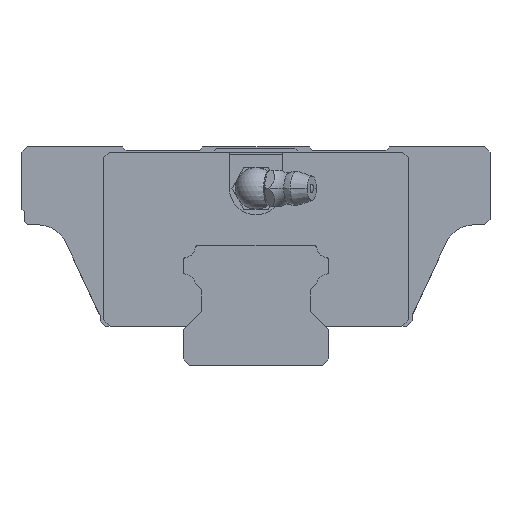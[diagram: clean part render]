
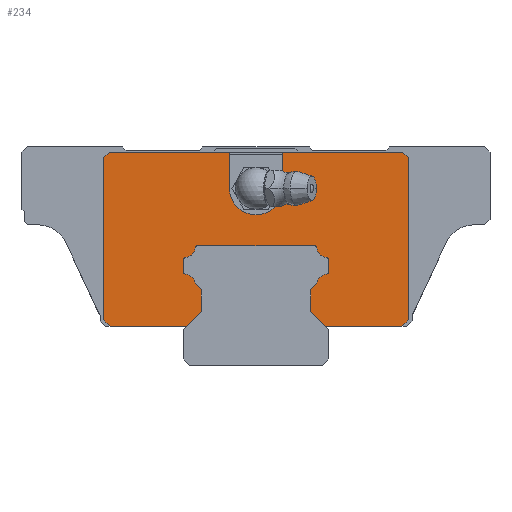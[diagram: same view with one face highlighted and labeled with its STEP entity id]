
A CAD part, front view. The second image highlights one B-rep face of the part: STEP entity #234.
In plain terms, the highlighted planar face has unit normal (0, -1, 0).
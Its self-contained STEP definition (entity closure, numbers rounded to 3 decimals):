
#234=ADVANCED_FACE('',(#568),#569,.F.);
#568=FACE_OUTER_BOUND('',#1134,.T.);
#569=PLANE('',#1135);
#1134=EDGE_LOOP('',(#2118,#2119,#2120,#2121,#2122,#2123,#2124,#2125,#2126,#2127,#2128,#2129,#2130,#2131,#2132,#2133,#2134,#2135,#2136,#2137,#2138,#2139,#2140,#2141,#2142,#2143,#2144,#2145,#2146,#2147,#2148,#2149,#2150));
#1135=AXIS2_PLACEMENT_3D('',#2151,#2152,#2153);
#2118=ORIENTED_EDGE('',*,*,#4093,.F.);
#2119=ORIENTED_EDGE('',*,*,#4094,.T.);
#2120=ORIENTED_EDGE('',*,*,#4095,.T.);
#2121=ORIENTED_EDGE('',*,*,#4096,.T.);
#2122=ORIENTED_EDGE('',*,*,#4097,.T.);
#2123=ORIENTED_EDGE('',*,*,#4098,.T.);
#2124=ORIENTED_EDGE('',*,*,#4099,.F.);
#2125=ORIENTED_EDGE('',*,*,#4100,.F.);
#2126=ORIENTED_EDGE('',*,*,#3859,.F.);
#2127=ORIENTED_EDGE('',*,*,#4101,.F.);
#2128=ORIENTED_EDGE('',*,*,#4102,.T.);
#2129=ORIENTED_EDGE('',*,*,#4103,.T.);
#2130=ORIENTED_EDGE('',*,*,#4071,.T.);
#2131=ORIENTED_EDGE('',*,*,#4104,.T.);
#2132=ORIENTED_EDGE('',*,*,#4105,.T.);
#2133=ORIENTED_EDGE('',*,*,#4106,.F.);
#2134=ORIENTED_EDGE('',*,*,#4107,.F.);
#2135=ORIENTED_EDGE('',*,*,#4091,.F.);
#2136=ORIENTED_EDGE('',*,*,#4068,.F.);
#2137=ORIENTED_EDGE('',*,*,#4108,.F.);
#2138=ORIENTED_EDGE('',*,*,#4020,.F.);
#2139=ORIENTED_EDGE('',*,*,#4109,.F.);
#2140=ORIENTED_EDGE('',*,*,#4110,.F.);
#2141=ORIENTED_EDGE('',*,*,#4111,.F.);
#2142=ORIENTED_EDGE('',*,*,#4112,.F.);
#2143=ORIENTED_EDGE('',*,*,#4113,.F.);
#2144=ORIENTED_EDGE('',*,*,#4016,.F.);
#2145=ORIENTED_EDGE('',*,*,#4114,.F.);
#2146=ORIENTED_EDGE('',*,*,#4115,.F.);
#2147=ORIENTED_EDGE('',*,*,#4116,.F.);
#2148=ORIENTED_EDGE('',*,*,#4044,.F.);
#2149=ORIENTED_EDGE('',*,*,#4117,.F.);
#2150=ORIENTED_EDGE('',*,*,#4118,.F.);
#2151=CARTESIAN_POINT('',(44.9,-13.8,24.35));
#2152=DIRECTION('',(0.0,1.0,0.0));
#2153=DIRECTION('',(1.0,0.0,0.0));
#3859=EDGE_CURVE('',#4576,#4572,#4578,.T.);
#4016=EDGE_CURVE('',#4872,#4864,#4874,.T.);
#4020=EDGE_CURVE('',#4880,#4876,#4882,.T.);
#4044=EDGE_CURVE('',#4920,#4912,#4922,.T.);
#4068=EDGE_CURVE('',#4962,#4954,#4964,.T.);
#4071=EDGE_CURVE('',#4969,#4966,#4970,.T.);
#4091=EDGE_CURVE('',#4954,#4999,#5002,.T.);
#4093=EDGE_CURVE('',#5004,#5005,#5006,.T.);
#4094=EDGE_CURVE('',#5004,#5007,#5008,.T.);
#4095=EDGE_CURVE('',#5007,#5009,#5010,.T.);
#4096=EDGE_CURVE('',#5009,#5011,#5012,.T.);
#4097=EDGE_CURVE('',#5011,#5013,#5014,.T.);
#4098=EDGE_CURVE('',#5013,#5015,#5016,.T.);
#4099=EDGE_CURVE('',#5017,#5015,#5018,.T.);
#4100=EDGE_CURVE('',#4572,#5017,#5019,.T.);
#4101=EDGE_CURVE('',#5020,#4576,#5021,.T.);
#4102=EDGE_CURVE('',#5020,#5022,#5023,.T.);
#4103=EDGE_CURVE('',#5022,#4969,#5024,.T.);
#4104=EDGE_CURVE('',#4966,#5025,#5026,.T.);
#4105=EDGE_CURVE('',#5025,#5027,#5028,.T.);
#4106=EDGE_CURVE('',#5029,#5027,#5030,.T.);
#4107=EDGE_CURVE('',#4999,#5029,#5031,.T.);
#4108=EDGE_CURVE('',#4876,#4962,#5032,.T.);
#4109=EDGE_CURVE('',#5033,#4880,#5034,.T.);
#4110=EDGE_CURVE('',#5035,#5033,#5036,.T.);
#4111=EDGE_CURVE('',#5037,#5035,#5038,.T.);
#4112=EDGE_CURVE('',#5039,#5037,#5040,.T.);
#4113=EDGE_CURVE('',#4864,#5039,#5041,.T.);
#4114=EDGE_CURVE('',#5042,#4872,#5043,.T.);
#4115=EDGE_CURVE('',#5044,#5042,#5045,.T.);
#4116=EDGE_CURVE('',#4912,#5044,#5046,.T.);
#4117=EDGE_CURVE('',#5047,#4920,#5048,.T.);
#4118=EDGE_CURVE('',#5005,#5047,#5049,.T.);
#4572=VERTEX_POINT('',#5754);
#4576=VERTEX_POINT('',#5759);
#4578=CIRCLE('',#5762,5.1);
#4864=VERTEX_POINT('',#6130);
#4872=VERTEX_POINT('',#6145);
#4874=CIRCLE('',#6150,2.0);
#4876=VERTEX_POINT('',#6152);
#4880=VERTEX_POINT('',#6158);
#4882=LINE('',#6161,#6162);
#4912=VERTEX_POINT('',#6205);
#4920=VERTEX_POINT('',#6222);
#4922=CIRCLE('',#6225,2.0);
#4954=VERTEX_POINT('',#6268);
#4962=VERTEX_POINT('',#6283);
#4964=CIRCLE('',#6288,2.0);
#4966=VERTEX_POINT('',#6290);
#4969=VERTEX_POINT('',#6294);
#4970=LINE('',#6295,#6296);
#4999=VERTEX_POINT('',#6338);
#5002=LINE('',#6343,#6344);
#5004=VERTEX_POINT('',#6346);
#5005=VERTEX_POINT('',#6347);
#5006=LINE('',#6348,#6349);
#5007=VERTEX_POINT('',#6350);
#5008=LINE('',#6351,#6352);
#5009=VERTEX_POINT('',#6353);
#5010=LINE('',#6354,#6355);
#5011=VERTEX_POINT('',#6356);
#5012=LINE('',#6357,#6358);
#5013=VERTEX_POINT('',#6359);
#5014=LINE('',#6360,#6361);
#5015=VERTEX_POINT('',#6362);
#5016=LINE('',#6363,#6364);
#5017=VERTEX_POINT('',#6365);
#5018=LINE('',#6366,#6367);
#5019=CIRCLE('',#6368,5.1);
#5020=VERTEX_POINT('',#6369);
#5021=LINE('',#6370,#6371);
#5022=VERTEX_POINT('',#6372);
#5023=LINE('',#6373,#6374);
#5024=LINE('',#6375,#6376);
#5025=VERTEX_POINT('',#6377);
#5026=LINE('',#6378,#6379);
#5027=VERTEX_POINT('',#6380);
#5028=LINE('',#6381,#6382);
#5029=VERTEX_POINT('',#6383);
#5030=LINE('',#6384,#6385);
#5031=LINE('',#6386,#6387);
#5032=CIRCLE('',#6388,0.5);
#5033=VERTEX_POINT('',#6389);
#5034=CIRCLE('',#6390,0.5);
#5035=VERTEX_POINT('',#6391);
#5036=CIRCLE('',#6392,2.0);
#5037=VERTEX_POINT('',#6393);
#5038=CIRCLE('',#6394,0.5);
#5039=VERTEX_POINT('',#6395);
#5040=LINE('',#6396,#6397);
#5041=CIRCLE('',#6398,0.5);
#5042=VERTEX_POINT('',#6399);
#5043=CIRCLE('',#6400,0.5);
#5044=VERTEX_POINT('',#6401);
#5045=LINE('',#6402,#6403);
#5046=CIRCLE('',#6404,0.5);
#5047=VERTEX_POINT('',#6405);
#5048=LINE('',#6406,#6407);
#5049=LINE('',#6408,#6409);
#5754=CARTESIAN_POINT('',(0.,-13.8,28.9));
#5759=CARTESIAN_POINT('',(-5.1,-13.8,34.0));
#5762=AXIS2_PLACEMENT_3D('',#7572,#7573,#7574);
#6130=CARTESIAN_POINT('',(11.699,-13.8,22.544));
#6145=CARTESIAN_POINT('',(13.536,-13.8,20.725));
#6150=AXIS2_PLACEMENT_3D('',#7868,#7869,#7870);
#6152=CARTESIAN_POINT('',(-14.,-13.8,17.995));
#6158=CARTESIAN_POINT('',(-14.,-13.8,20.226));
#6161=CARTESIAN_POINT('',(-14.,-13.8,24.35));
#6162=VECTOR('',#7874,1000.0);
#6205=CARTESIAN_POINT('',(13.536,-13.8,17.496));
#6222=CARTESIAN_POINT('',(11.701,-13.8,15.703));
#6225=AXIS2_PLACEMENT_3D('',#7907,#7908,#7909);
#6268=CARTESIAN_POINT('',(-11.701,-13.8,15.703));
#6283=CARTESIAN_POINT('',(-13.536,-13.8,17.496));
#6288=AXIS2_PLACEMENT_3D('',#7946,#7947,#7948);
#6290=CARTESIAN_POINT('',(-29.25,-13.8,8.7));
#6294=CARTESIAN_POINT('',(-29.25,-13.8,40.0));
#6295=CARTESIAN_POINT('',(-29.25,-13.8,40.0));
#6296=VECTOR('',#7953,1000.0);
#6338=CARTESIAN_POINT('',(-10.5,-13.8,14.502));
#6343=CARTESIAN_POINT('',(12.276,-13.8,-8.274));
#6344=VECTOR('',#7981,1000.0);
#6346=CARTESIAN_POINT('',(13.3,-13.8,7.5));
#6347=CARTESIAN_POINT('',(10.5,-13.8,10.3));
#6348=CARTESIAN_POINT('',(20.675,-13.8,0.125));
#6349=VECTOR('',#7985,1000.0);
#6350=CARTESIAN_POINT('',(28.05,-13.8,7.5));
#6351=CARTESIAN_POINT('',(-28.05,-13.8,7.5));
#6352=VECTOR('',#7986,1000.0);
#6353=CARTESIAN_POINT('',(29.25,-13.8,8.7));
#6354=CARTESIAN_POINT('',(28.05,-13.8,7.5));
#6355=VECTOR('',#7987,1000.0);
#6356=CARTESIAN_POINT('',(29.25,-13.8,40.0));
#6357=CARTESIAN_POINT('',(29.25,-13.8,8.7));
#6358=VECTOR('',#7988,1000.0);
#6359=CARTESIAN_POINT('',(28.25,-13.8,41.0));
#6360=CARTESIAN_POINT('',(29.25,-13.8,40.0));
#6361=VECTOR('',#7989,1000.0);
#6362=CARTESIAN_POINT('',(5.1,-13.8,41.0));
#6363=CARTESIAN_POINT('',(28.25,-13.8,41.0));
#6364=VECTOR('',#7990,1000.0);
#6365=CARTESIAN_POINT('',(5.1,-13.8,34.0));
#6366=CARTESIAN_POINT('',(5.1,-13.8,34.0));
#6367=VECTOR('',#7991,1000.0);
#6368=AXIS2_PLACEMENT_3D('',#7992,#7993,#7994);
#6369=CARTESIAN_POINT('',(-5.1,-13.8,41.0));
#6370=CARTESIAN_POINT('',(-5.1,-13.8,41.0));
#6371=VECTOR('',#7995,1000.0);
#6372=CARTESIAN_POINT('',(-28.25,-13.8,41.0));
#6373=CARTESIAN_POINT('',(28.25,-13.8,41.0));
#6374=VECTOR('',#7996,1000.0);
#6375=CARTESIAN_POINT('',(-28.25,-13.8,41.0));
#6376=VECTOR('',#7997,1000.0);
#6377=CARTESIAN_POINT('',(-28.05,-13.8,7.5));
#6378=CARTESIAN_POINT('',(-29.25,-13.8,8.7));
#6379=VECTOR('',#7998,1000.0);
#6380=CARTESIAN_POINT('',(-13.3,-13.8,7.5));
#6381=CARTESIAN_POINT('',(-28.05,-13.8,7.5));
#6382=VECTOR('',#7999,1000.0);
#6383=CARTESIAN_POINT('',(-10.5,-13.8,10.3));
#6384=CARTESIAN_POINT('',(24.225,-13.8,45.025));
#6385=VECTOR('',#8000,1000.0);
#6386=CARTESIAN_POINT('',(-10.5,-13.8,24.35));
#6387=VECTOR('',#8001,1000.0);
#6388=AXIS2_PLACEMENT_3D('',#8002,#8003,#8004);
#6389=CARTESIAN_POINT('',(-13.536,-13.8,20.725));
#6390=AXIS2_PLACEMENT_3D('',#8005,#8006,#8007);
#6391=CARTESIAN_POINT('',(-11.699,-13.8,22.544));
#6392=AXIS2_PLACEMENT_3D('',#8008,#8009,#8010);
#6393=CARTESIAN_POINT('',(-11.201,-13.8,23.0));
#6394=AXIS2_PLACEMENT_3D('',#8011,#8012,#8013);
#6395=CARTESIAN_POINT('',(11.201,-13.8,23.0));
#6396=CARTESIAN_POINT('',(44.9,-13.8,23.0));
#6397=VECTOR('',#8014,1000.0);
#6398=AXIS2_PLACEMENT_3D('',#8015,#8016,#8017);
#6399=CARTESIAN_POINT('',(14.,-13.8,20.226));
#6400=AXIS2_PLACEMENT_3D('',#8018,#8019,#8020);
#6401=CARTESIAN_POINT('',(14.,-13.8,17.995));
#6402=CARTESIAN_POINT('',(14.,-13.8,24.35));
#6403=VECTOR('',#8021,1000.0);
#6404=AXIS2_PLACEMENT_3D('',#8022,#8023,#8024);
#6405=CARTESIAN_POINT('',(10.5,-13.8,14.502));
#6406=CARTESIAN_POINT('',(32.624,-13.8,36.626));
#6407=VECTOR('',#8025,1000.0);
#6408=CARTESIAN_POINT('',(10.5,-13.8,24.35));
#6409=VECTOR('',#8026,1000.0);
#7572=CARTESIAN_POINT('',(0.0,-13.8,34.0));
#7573=DIRECTION('',(0.0,-1.0,0.0));
#7574=DIRECTION('',(-1.0,0.0,0.0));
#7868=CARTESIAN_POINT('',(13.691,-13.8,22.719));
#7869=DIRECTION('',(0.0,1.0,0.0));
#7870=DIRECTION('',(0.0,0.0,1.0));
#7874=DIRECTION('',(0.0,0.0,-1.0));
#7907=CARTESIAN_POINT('',(13.691,-13.8,15.502));
#7908=DIRECTION('',(0.0,1.0,0.0));
#7909=DIRECTION('',(0.0,0.0,1.0));
#7946=CARTESIAN_POINT('',(-13.691,-13.8,15.502));
#7947=DIRECTION('',(0.0,1.0,0.0));
#7948=DIRECTION('',(0.0,0.0,1.0));
#7953=DIRECTION('',(0.0,0.0,-1.0));
#7981=DIRECTION('',(0.707,0.0,-0.707));
#7985=DIRECTION('',(-0.707,0.0,0.707));
#7986=DIRECTION('',(1.0,0.0,0.0));
#7987=DIRECTION('',(0.707,0.0,0.707));
#7988=DIRECTION('',(0.0,0.0,1.0));
#7989=DIRECTION('',(-0.707,0.0,0.707));
#7990=DIRECTION('',(-1.0,0.0,0.0));
#7991=DIRECTION('',(0.0,0.0,1.0));
#7992=CARTESIAN_POINT('',(0.0,-13.8,34.0));
#7993=DIRECTION('',(0.0,-1.0,0.0));
#7994=DIRECTION('',(-1.0,0.0,0.0));
#7995=DIRECTION('',(0.0,0.0,-1.0));
#7996=DIRECTION('',(-1.0,0.0,0.0));
#7997=DIRECTION('',(-0.707,0.0,-0.707));
#7998=DIRECTION('',(0.707,0.0,-0.707));
#7999=DIRECTION('',(1.0,0.0,0.0));
#8000=DIRECTION('',(-0.707,0.0,-0.707));
#8001=DIRECTION('',(0.0,0.0,-1.0));
#8002=CARTESIAN_POINT('',(-13.5,-13.8,17.995));
#8003=DIRECTION('',(0.0,-1.0,0.0));
#8004=DIRECTION('',(0.0,0.0,1.0));
#8005=CARTESIAN_POINT('',(-13.5,-13.8,20.226));
#8006=DIRECTION('',(0.0,-1.0,0.0));
#8007=DIRECTION('',(0.0,0.0,1.0));
#8008=CARTESIAN_POINT('',(-13.691,-13.8,22.719));
#8009=DIRECTION('',(0.0,1.0,0.0));
#8010=DIRECTION('',(0.0,0.0,1.0));
#8011=CARTESIAN_POINT('',(-11.201,-13.8,22.5));
#8012=DIRECTION('',(0.0,-1.0,0.0));
#8013=DIRECTION('',(0.0,0.0,1.0));
#8014=DIRECTION('',(-1.0,0.0,0.));
#8015=CARTESIAN_POINT('',(11.201,-13.8,22.5));
#8016=DIRECTION('',(0.0,-1.0,0.0));
#8017=DIRECTION('',(0.0,0.0,1.0));
#8018=CARTESIAN_POINT('',(13.5,-13.8,20.226));
#8019=DIRECTION('',(0.0,-1.0,0.0));
#8020=DIRECTION('',(0.0,0.0,1.0));
#8021=DIRECTION('',(0.0,0.0,1.0));
#8022=CARTESIAN_POINT('',(13.5,-13.8,17.995));
#8023=DIRECTION('',(0.0,-1.0,0.0));
#8024=DIRECTION('',(0.0,0.0,1.0));
#8025=DIRECTION('',(0.707,0.0,0.707));
#8026=DIRECTION('',(0.0,0.0,1.0));
